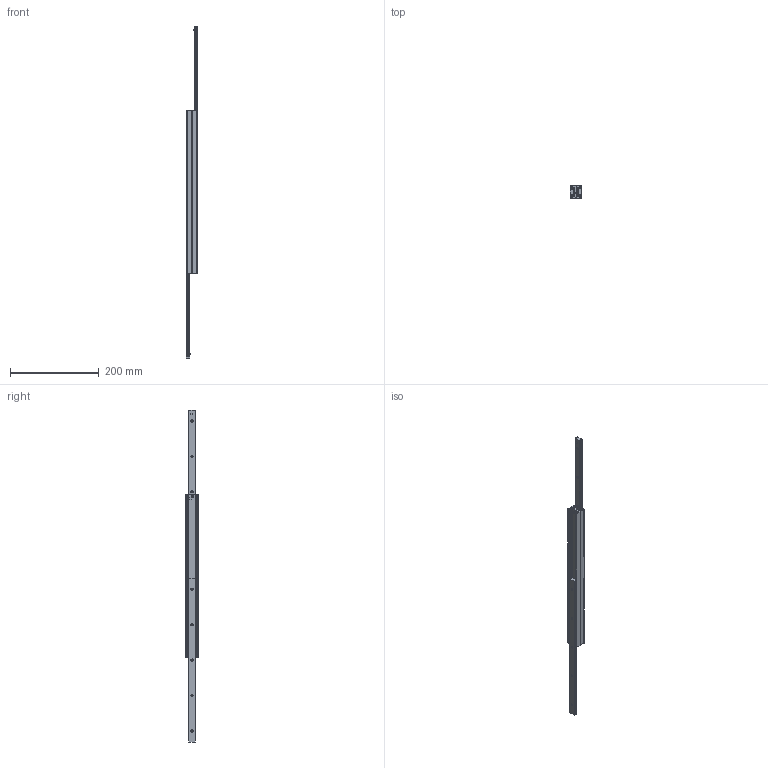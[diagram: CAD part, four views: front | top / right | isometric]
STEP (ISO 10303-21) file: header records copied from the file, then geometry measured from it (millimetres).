
FILE_DESCRIPTION( ( 'STEP AP214' ), '1' );
FILE_NAME( 'p:/temp/worker_84/temp/exporttempdir_3784_357_tRIaM/format_1/DEF28-370380.stp', '2020-03-20T19:44:13', ( 'License CC BY-ND 4.0' ), ( 'CADENAS' ), ' ', 'PARTsolutions', ' ' );
FILE_SCHEMA( ( 'AUTOMOTIVE_DESIGN { 1 0 10303 214 1 1 1 1 }' ) );
Length unit declared in the file: millimetre
Products named in the file (4): DEF28-370380; _282137038012-gf; _28213703801-ei; _282137038011-gf
Assembly tree (4 placements, depth 2):
  DEF28-370380
    _282137038012-gf
    _28213703801-ei  x2
    _282137038011-gf
Bounding box: 26 x 28 x 750 mm (x, y, z)
Volume: 179554.6 mm3; surface area: 107750.3 mm2
Topology: 4 solids, 4 shells, 180 faces, 458 edges, 298 vertices
Faces by surface type: plane 102, cylinder 54, cone 24
Full cylindrical faces by diameter (mm): 4.134 x10, 5 x2
Entity records: 4996 total; most frequent: DIRECTION 684, CARTESIAN_POINT 656, ORIENTED_EDGE 604, EDGE_CURVE 302, AXIS2_PLACEMENT_3D 244, VERTEX_POINT 216, LINE 196, VECTOR 196
